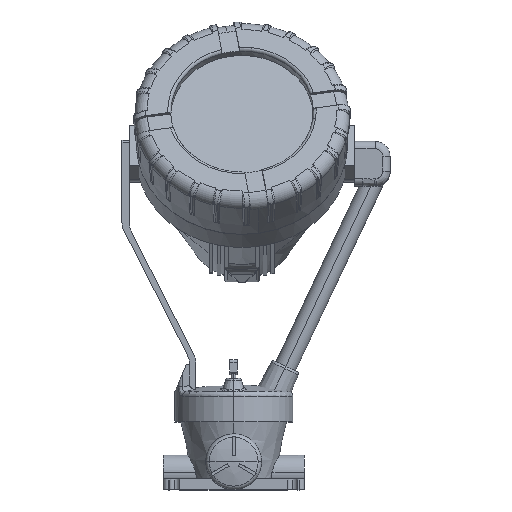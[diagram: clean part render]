
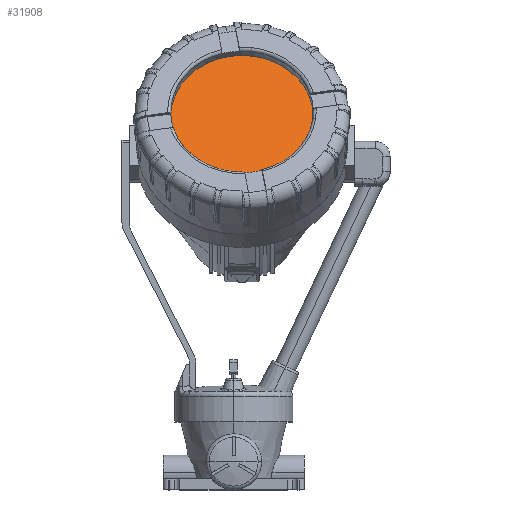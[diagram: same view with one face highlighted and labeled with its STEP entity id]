
A CAD part, top view. The second image highlights one B-rep face of the part: STEP entity #31908.
In plain terms, the highlighted planar face has unit normal (0, 0.522, 0.853) as drawn and (0, 1, 0) by its records, which use the part's own axes.
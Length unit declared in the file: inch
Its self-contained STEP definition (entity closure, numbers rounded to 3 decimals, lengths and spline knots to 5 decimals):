
#10088 = CARTESIAN_POINT ( 'NONE',  ( 0., 0.2, 3.375 ) ) ;
#10131 = DIRECTION ( 'NONE',  ( 0., 0., 1. ) ) ;
#10132 = DIRECTION ( 'NONE',  ( 0., 1., 0. ) ) ;
#10133 = CARTESIAN_POINT ( 'NONE',  ( 0., 0.2, 0. ) ) ;
#10134 = AXIS2_PLACEMENT_3D ( 'NONE', #10133, #10132, #10131 ) ;
#10135 = CIRCLE ( 'NONE', #10134, 3.375 ) ;
#10156 = CARTESIAN_POINT ( 'NONE',  ( 0., 0.2, -3.375 ) ) ;
#10158 = DIRECTION ( 'NONE',  ( 0., 0., 1. ) ) ;
#10159 = DIRECTION ( 'NONE',  ( 0., 1., 0. ) ) ;
#10160 = AXIS2_PLACEMENT_3D ( 'NONE', #10167, #10159, #10158 ) ;
#10161 = CIRCLE ( 'NONE', #10160, 3.375 ) ;
#10167 = CARTESIAN_POINT ( 'NONE',  ( 0., 0.2, 0. ) ) ;
#10179 = DIRECTION ( 'NONE',  ( 0., 0., 1. ) ) ;
#10180 = DIRECTION ( 'NONE',  ( 0., 1., 0. ) ) ;
#10181 = AXIS2_PLACEMENT_3D ( 'NONE', #10183, #10180, #10179 ) ;
#10183 = CARTESIAN_POINT ( 'NONE',  ( 0., 0.2, 0. ) ) ;
#10184 = PLANE ( 'NONE',  #10181 ) ;
#10189 = FACE_OUTER_BOUND ( 'NONE', #31909, .T. ) ;
#31863 = VERTEX_POINT ( 'NONE', #10088 ) ;
#31874 = EDGE_CURVE ( 'NONE', #31891, #31863, #10135, .T. ) ;
#31889 = EDGE_CURVE ( 'NONE', #31863, #31891, #10161, .T. ) ;
#31891 = VERTEX_POINT ( 'NONE', #10156 ) ;
#31908 = ADVANCED_FACE ( 'NONE', ( #10189 ), #10184, .T. ) ;
#31909 = EDGE_LOOP ( 'NONE', ( #31911, #31913 ) ) ;
#31911 = ORIENTED_EDGE ( 'NONE', *, *, #31874, .T. ) ;
#31913 = ORIENTED_EDGE ( 'NONE', *, *, #31889, .T. ) ;
